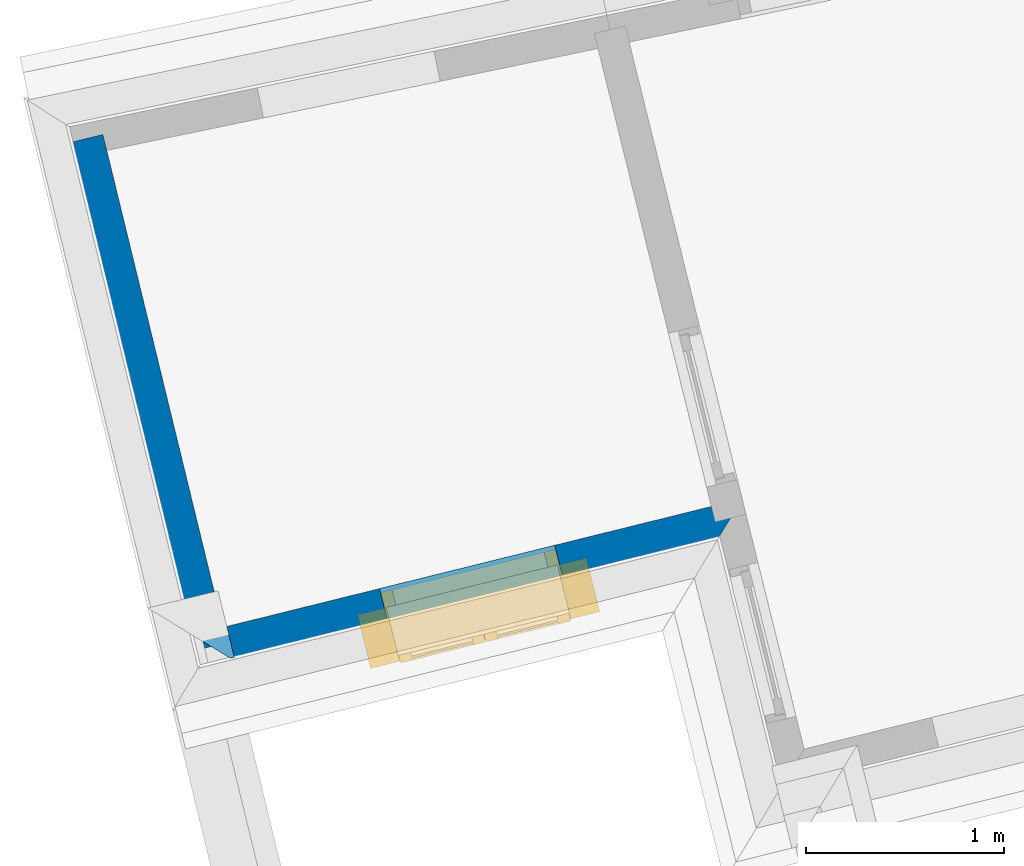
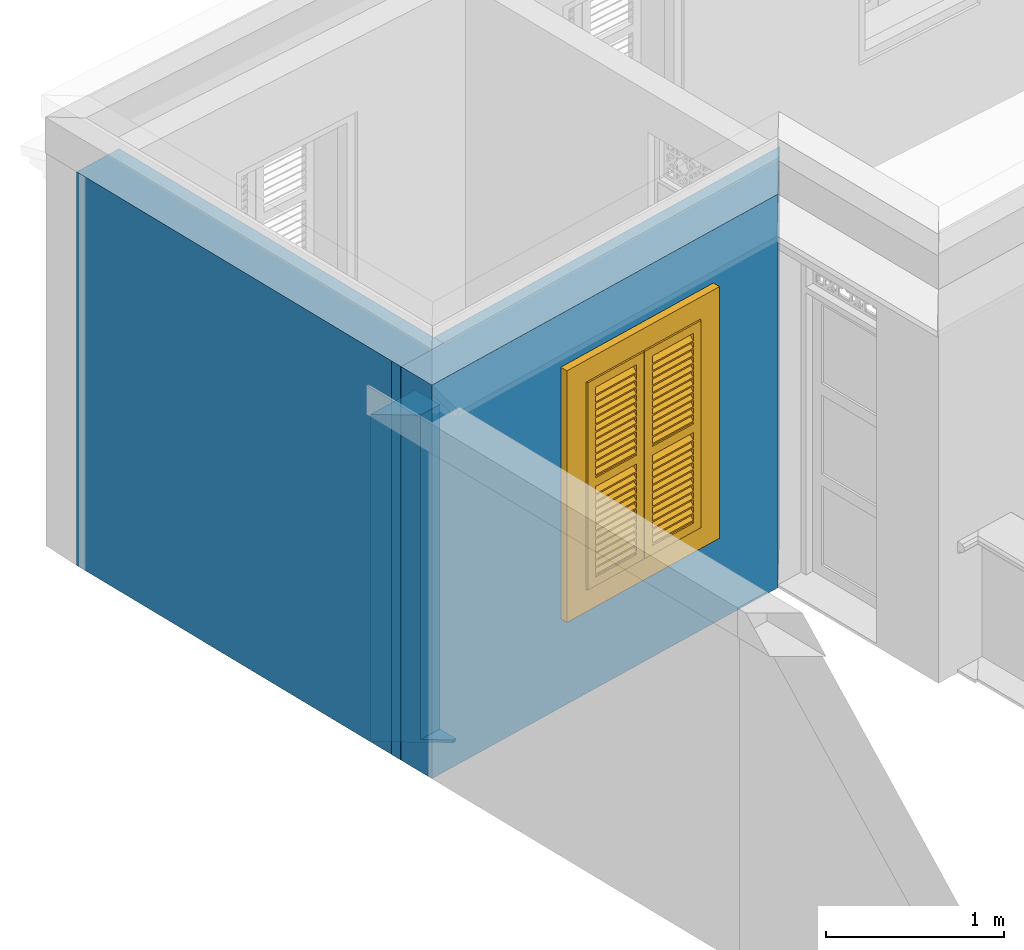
# One storey, part 7 of 15: 3 walls, 1 window, 1 opening.
"""IFC4 building model written with IfcOpenShell, lengths in metres."""

from ifc_helpers import new_model, si_unit, frame, origin, origin_with_axes, place, context, subcontext, project, spatial, polyline, outline, extrude, clip, halfspace, faceted_brep, source, transform, mapped, material, layer, layer_set, layer_usage, material_profile, profile_set, profile_usage, type_object, type_shapes, element, fill, save


model = new_model("IFC4")

# Units and contexts
model_context = context("Model", 3, world=origin_with_axes())
body_context = subcontext(model_context, "Body", "Model", "MODEL_VIEW")
ifc_project = project(units=[si_unit("PLANEANGLEUNIT", "RADIAN"), si_unit("MASSUNIT", "GRAM", prefix="KILO"), si_unit("FORCEUNIT", "NEWTON", prefix="KILO"), si_unit("LENGTHUNIT", "METRE"), si_unit("AREAUNIT", "SQUARE_METRE"), si_unit("VOLUMEUNIT", "CUBIC_METRE")], contexts=[model_context, model_context])

# Site, building, storey
site_placement = place(None, origin_with_axes())
site = spatial("IfcSite", under=ifc_project, at=site_placement, Name="Site plot-5", CompositionType="ELEMENT")
building_placement = place(None, origin_with_axes())
building = spatial("IfcBuilding", under=site, at=building_placement, Name="Building plot-5", CompositionType="ELEMENT")
storey_placement = place(None, frame((0.0, 0.0, 3.45), z_axis=(0.0, 0.0, 1.0), x_axis=(1.0, 0.0, 0.0)))
storey = spatial("IfcBuildingStorey", under=building, at=storey_placement, Name="plot-5 1", CompositionType="ELEMENT", Elevation=3.45)

# Wall, opening, window
ifc_material_1 = material(Name="Masonry")
ifc_layer_1 = layer(ifc_material_1, 0.33, ventilated=False)
ifc_layer_set_1 = layer_set([ifc_layer_1], Name="exterior_0.08_0.25")
ifc_layer_usage_1 = layer_usage(ifc_layer_set_1, "AXIS2", "POSITIVE", -0.25)
wall_type_1 = type_object("IfcWallType", Name="exterior_0.08_0.25", PredefinedType="SOLIDWALL", material=ifc_layer_set_1)
wall_1_placement = place(storey_placement, frame((15.2083541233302, 28.0535389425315, 0.0), z_axis=(0.0, 0.0, 1.0), x_axis=(0.970711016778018, 0.240250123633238, 0.0)))
wall_1 = element("IfcWall", 1, at=wall_1_placement, inside=storey, type_object=wall_type_1, material=ifc_layer_usage_1, Name="exterior", context=body_context, shape_type="SweptSolid", body=[
    extrude(outline(polyline([(-0.25, 0.0800000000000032), (-0.249999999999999, -0.249999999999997), (2.44735428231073, -0.249999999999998), (2.77735428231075, 0.080000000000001), (-0.25, 0.0800000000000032)])), origin_with_axes(), (0.0, 0.0, 1.0), 2.7),
])
opening_placement = place(wall_1_placement, frame((0.89367714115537, 0.0, 0.75)))
opening = element("IfcOpeningElement", 2, at=opening_placement, cuts=wall_1, Name="My Opening", ObjectType="Opening", context=body_context, shape_type="SweptSolid", body=[
    extrude(outline(polyline([(0.0, -0.270000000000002), (0.909999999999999, -0.269999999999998), (0.91, 1.1), (5.55111512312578e-16, 1.1), (0.0, -0.270000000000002)])), origin_with_axes(), (0.0, 0.0, 1.0), 1.445),
])
window_type = type_object("IfcWindowType", Name="shuttered_shorter", PartitioningType="DOUBLE_PANEL_HORIZONTAL", PredefinedType="NOTDEFINED")
shared_shape = source(origin(), body_context, "Body", "Brep", [
    faceted_brep([(0.393, 0.0, 0.622), (0.074, 0.0, 0.622), (0.074, 0.0, 0.632), (0.393, 0.0, 0.632), (0.074, -0.04, 0.592), (0.393, -0.04, 0.592), (0.393, -0.04, 0.582), (0.074, -0.04, 0.582), (0.517, 0.0, 0.682), (0.836, 0.0, 0.682), (0.836, 0.0, 0.672), (0.517, 0.0, 0.672), (0.517, -0.04, 0.642), (0.836, -0.04, 0.642), (0.836, -0.04, 0.632), (0.517, -0.04, 0.632), (0.517, 0.0, 0.632), (0.836, 0.0, 0.632), (0.836, 0.0, 0.622), (0.517, 0.0, 0.622), (0.517, -0.04, 0.592), (0.836, -0.04, 0.592), (0.836, -0.04, 0.582), (0.517, -0.04, 0.582), (0.517, 0.0, 0.232), (0.836, 0.0, 0.232), (0.836, 0.0, 0.222), (0.517, 0.0, 0.222), (0.517, -0.04, 0.192), (0.836, -0.04, 0.192), (0.836, -0.04, 0.182), (0.517, -0.04, 0.182), (0.517, 0.0, 0.532), (0.836, 0.0, 0.532), (0.836, 0.0, 0.522), (0.517, 0.0, 0.522), (0.517, -0.04, 0.492), (0.836, -0.04, 0.492), (0.836, -0.04, 0.482), (0.517, -0.04, 0.482), (0.517, 0.0, 0.482), (0.836, 0.0, 0.482), (0.836, 0.0, 0.472), (0.517, 0.0, 0.472), (0.517, -0.04, 0.442), (0.836, -0.04, 0.442), (0.836, -0.04, 0.432), (0.517, -0.04, 0.432), (0.517, 0.0, 0.582), (0.836, 0.0, 0.582), (0.836, 0.0, 0.572), (0.517, 0.0, 0.572), (0.517, -0.04, 0.542), (0.836, -0.04, 0.542), (0.836, -0.04, 0.532), (0.517, -0.04, 0.532), (0.517, 0.0, 0.182), (0.836, 0.0, 0.182), (0.836, 0.0, 0.172), (0.517, 0.0, 0.172), (0.517, -0.04, 0.142), (0.836, -0.04, 0.142), (0.836, -0.04, 0.132), (0.517, -0.04, 0.132), (0.517, 0.0, 0.382), (0.836, 0.0, 0.382), (0.836, 0.0, 0.372), (0.517, 0.0, 0.372), (0.517, -0.04, 0.342), (0.836, -0.04, 0.342), (0.836, -0.04, 0.332), (0.517, -0.04, 0.332), (0.517, 0.0, 0.432), (0.836, 0.0, 0.432), (0.836, 0.0, 0.422), (0.517, 0.0, 0.422), (0.517, -0.04, 0.392), (0.836, -0.04, 0.392), (0.836, -0.04, 0.382), (0.517, -0.04, 0.382), (0.517, 0.0, 0.132), (0.836, 0.0, 0.132), (0.836, 0.0, 0.122), (0.517, 0.0, 0.122), (0.517, -0.04, 0.092), (0.836, -0.04, 0.092), (0.836, -0.04, 0.082), (0.517, -0.04, 0.082), (0.517, 0.0, 0.282), (0.836, 0.0, 0.282), (0.836, 0.0, 0.272), (0.517, 0.0, 0.272), (0.517, -0.04, 0.242), (0.836, -0.04, 0.242), (0.836, -0.04, 0.232), (0.517, -0.04, 0.232), (0.517, 0.0, 0.332), (0.836, 0.0, 0.332), (0.836, 0.0, 0.322), (0.517, 0.0, 0.322), (0.517, -0.04, 0.292), (0.836, -0.04, 0.292), (0.836, -0.04, 0.282), (0.517, -0.04, 0.282), (0.517, 0.0, 1.362667), (0.836, 0.0, 1.362667), (0.836, 0.0, 1.352667), (0.517, 0.0, 1.352667), (0.517, -0.04, 1.322667), (0.836, -0.04, 1.322667), (0.836, -0.04, 1.312667), (0.517, -0.04, 1.312667), (0.517, 0.0, 1.312667), (0.836, 0.0, 1.312667), (0.836, 0.0, 1.302667), (0.517, 0.0, 1.302667), (0.517, -0.04, 1.272667), (0.836, -0.04, 1.272667), (0.836, -0.04, 1.262667), (0.517, -0.04, 1.262667), (0.517, 0.0, 0.912667), (0.836, 0.0, 0.912667), (0.836, 0.0, 0.902667), (0.517, 0.0, 0.902667), (0.517, -0.04, 0.872667), (0.836, -0.04, 0.872667), (0.836, -0.04, 0.862667), (0.517, -0.04, 0.862667), (0.517, 0.0, 1.212667), (0.836, 0.0, 1.212667), (0.836, 0.0, 1.202667), (0.517, 0.0, 1.202667), (0.517, -0.04, 1.172667), (0.836, -0.04, 1.172667), (0.836, -0.04, 1.162667), (0.517, -0.04, 1.162667), (0.517, 0.0, 1.162667), (0.836, 0.0, 1.162667), (0.836, 0.0, 1.152667), (0.517, 0.0, 1.152667), (0.517, -0.04, 1.122667), (0.836, -0.04, 1.122667), (0.836, -0.04, 1.112667), (0.517, -0.04, 1.112667), (0.517, 0.0, 1.262667), (0.836, 0.0, 1.262667), (0.836, 0.0, 1.252667), (0.517, 0.0, 1.252667), (0.517, -0.04, 1.222667), (0.836, -0.04, 1.222667), (0.836, -0.04, 1.212667), (0.517, -0.04, 1.212667), (0.517, 0.0, 0.862667), (0.836, 0.0, 0.862667), (0.836, 0.0, 0.852667), (0.517, 0.0, 0.852667), (0.517, -0.04, 0.822667), (0.836, -0.04, 0.822667), (0.836, -0.04, 0.812667), (0.517, -0.04, 0.812667), (0.517, 0.0, 1.062667), (0.836, 0.0, 1.062667), (0.836, 0.0, 1.052667), (0.517, 0.0, 1.052667), (0.517, -0.04, 1.022667), (0.836, -0.04, 1.022667), (0.836, -0.04, 1.012667), (0.517, -0.04, 1.012667), (0.517, 0.0, 1.112667), (0.836, 0.0, 1.112667), (0.836, 0.0, 1.102667), (0.517, 0.0, 1.102667), (0.517, -0.04, 1.072667), (0.836, -0.04, 1.072667), (0.836, -0.04, 1.062667), (0.517, -0.04, 1.062667), (0.517, 0.0, 0.812667), (0.836, 0.0, 0.812667), (0.836, 0.0, 0.802667), (0.517, 0.0, 0.802667), (0.517, -0.04, 0.772667), (0.836, -0.04, 0.772667), (0.836, -0.04, 0.762667), (0.517, -0.04, 0.762667), (0.517, 0.0, 0.962667), (0.836, 0.0, 0.962667), (0.836, 0.0, 0.952667), (0.517, 0.0, 0.952667), (0.517, -0.04, 0.922667), (0.836, -0.04, 0.922667), (0.836, -0.04, 0.912667), (0.517, -0.04, 0.912667), (0.517, 0.0, 1.012667), (0.836, 0.0, 1.012667), (0.836, 0.0, 1.002667), (0.517, 0.0, 1.002667), (0.517, -0.04, 0.972667), (0.836, -0.04, 0.972667), (0.836, -0.04, 0.962667), (0.517, -0.04, 0.962667), (0.074, 0.0, 0.682), (0.393, 0.0, 0.682), (0.393, 0.0, 0.672), (0.074, 0.0, 0.672), (0.074, -0.04, 0.642), (0.393, -0.04, 0.642), (0.393, -0.04, 0.632), (0.074, -0.04, 0.632), (0.074, 0.0, 0.232), (0.393, 0.0, 0.232), (0.393, 0.0, 0.222), (0.074, 0.0, 0.222), (0.074, -0.04, 0.192), (0.393, -0.04, 0.192), (0.393, -0.04, 0.182), (0.074, -0.04, 0.182), (0.074, 0.0, 0.532), (0.393, 0.0, 0.532), (0.393, 0.0, 0.522), (0.074, 0.0, 0.522), (0.074, -0.04, 0.492), (0.393, -0.04, 0.492), (0.393, -0.04, 0.482), (0.074, -0.04, 0.482), (0.074, 0.0, 0.482), (0.393, 0.0, 0.482), (0.393, 0.0, 0.472), (0.074, 0.0, 0.472), (0.074, -0.04, 0.442), (0.393, -0.04, 0.442), (0.393, -0.04, 0.432), (0.074, -0.04, 0.432), (0.074, 0.0, 0.582), (0.393, 0.0, 0.582), (0.393, 0.0, 0.572), (0.074, 0.0, 0.572), (0.074, -0.04, 0.542), (0.393, -0.04, 0.542), (0.393, -0.04, 0.532), (0.074, -0.04, 0.532), (0.074, 0.0, 0.182), (0.393, 0.0, 0.182), (0.393, 0.0, 0.172), (0.074, 0.0, 0.172), (0.074, -0.04, 0.142), (0.393, -0.04, 0.142), (0.393, -0.04, 0.132), (0.074, -0.04, 0.132), (0.074, 0.0, 0.382), (0.393, 0.0, 0.382), (0.393, 0.0, 0.372), (0.074, 0.0, 0.372), (0.074, -0.04, 0.342), (0.393, -0.04, 0.342), (0.393, -0.04, 0.332), (0.074, -0.04, 0.332), (0.074, 0.0, 0.432), (0.393, 0.0, 0.432), (0.393, 0.0, 0.422), (0.074, 0.0, 0.422), (0.074, -0.04, 0.392), (0.393, -0.04, 0.392), (0.393, -0.04, 0.382), (0.074, -0.04, 0.382), (0.074, 0.0, 0.132), (0.393, 0.0, 0.132), (0.393, 0.0, 0.122), (0.074, 0.0, 0.122), (0.074, -0.04, 0.092), (0.393, -0.04, 0.092), (0.393, -0.04, 0.082), (0.074, -0.04, 0.082), (0.074, 0.0, 0.282), (0.393, 0.0, 0.282), (0.393, 0.0, 0.272), (0.074, 0.0, 0.272), (0.074, -0.04, 0.242), (0.393, -0.04, 0.242), (0.393, -0.04, 0.232), (0.074, -0.04, 0.232), (0.074, 0.0, 0.332), (0.393, 0.0, 0.332), (0.393, 0.0, 0.322), (0.074, 0.0, 0.322), (0.074, -0.04, 0.292), (0.393, -0.04, 0.292), (0.393, -0.04, 0.282), (0.074, -0.04, 0.282), (0.074, 0.0, 1.362667), (0.393, 0.0, 1.362667), (0.393, 0.0, 1.352667), (0.074, 0.0, 1.352667), (0.074, -0.04, 1.322667), (0.393, -0.04, 1.322667), (0.393, -0.04, 1.312667), (0.074, -0.04, 1.312667), (0.074, 0.0, 1.312667), (0.393, 0.0, 1.312667), (0.393, 0.0, 1.302667), (0.074, 0.0, 1.302667), (0.074, -0.04, 1.272667), (0.393, -0.04, 1.272667), (0.393, -0.04, 1.262667), (0.074, -0.04, 1.262667), (0.074, 0.0, 0.912667), (0.393, 0.0, 0.912667), (0.393, 0.0, 0.902667), (0.074, 0.0, 0.902667), (0.074, -0.04, 0.872667), (0.393, -0.04, 0.872667), (0.393, -0.04, 0.862667), (0.074, -0.04, 0.862667), (0.074, 0.0, 1.212667), (0.393, 0.0, 1.212667), (0.393, 0.0, 1.202667), (0.074, 0.0, 1.202667), (0.074, -0.04, 1.172667), (0.393, -0.04, 1.172667), (0.393, -0.04, 1.162667), (0.074, -0.04, 1.162667), (0.074, 0.0, 1.162667), (0.393, 0.0, 1.162667), (0.393, 0.0, 1.152667), (0.074, 0.0, 1.152667), (0.074, -0.04, 1.122667), (0.393, -0.04, 1.122667), (0.393, -0.04, 1.112667), (0.074, -0.04, 1.112667), (0.074, 0.0, 1.262667), (0.393, 0.0, 1.262667), (0.393, 0.0, 1.252667), (0.074, 0.0, 1.252667), (0.074, -0.04, 1.222667), (0.393, -0.04, 1.222667), (0.393, -0.04, 1.212667), (0.074, -0.04, 1.212667), (0.074, 0.0, 0.862667), (0.393, 0.0, 0.862667), (0.393, 0.0, 0.852667), (0.074, 0.0, 0.852667), (0.074, -0.04, 0.822667), (0.393, -0.04, 0.822667), (0.393, -0.04, 0.812667), (0.074, -0.04, 0.812667), (0.074, 0.0, 1.062667), (0.393, 0.0, 1.062667), (0.393, 0.0, 1.052667), (0.074, 0.0, 1.052667), (0.074, -0.04, 1.022667), (0.393, -0.04, 1.022667), (0.393, -0.04, 1.012667), (0.074, -0.04, 1.012667), (0.074, 0.0, 1.112667), (0.393, 0.0, 1.112667), (0.393, 0.0, 1.102667), (0.074, 0.0, 1.102667), (0.074, -0.04, 1.072667), (0.393, -0.04, 1.072667), (0.393, -0.04, 1.062667), (0.074, -0.04, 1.062667), (0.074, 0.0, 0.812667), (0.393, 0.0, 0.812667), (0.393, 0.0, 0.802667), (0.074, 0.0, 0.802667), (0.074, -0.04, 0.772667), (0.393, -0.04, 0.772667), (0.393, -0.04, 0.762667), (0.074, -0.04, 0.762667), (0.074, 0.0, 0.962667), (0.393, 0.0, 0.962667), (0.393, 0.0, 0.952667), (0.074, 0.0, 0.952667), (0.074, -0.04, 0.922667), (0.393, -0.04, 0.922667), (0.393, -0.04, 0.912667), (0.074, -0.04, 0.912667), (0.074, 0.0, 1.012667), (0.393, 0.0, 1.012667), (0.393, 0.0, 1.002667), (0.074, 0.0, 1.002667), (0.074, -0.04, 0.972667), (0.393, -0.04, 0.972667), (0.393, -0.04, 0.962667), (0.074, -0.04, 0.962667), (0.517, -0.04, 0.072), (0.457, -0.04, 0.012), (0.896, -0.04, 0.012), (0.836, -0.04, 0.072), (0.457, -0.04, 0.692667), (0.517, -0.04, 0.692667), (0.457, 0.0, 0.012), (0.896, 0.0, 0.012), (0.836, -0.04, 0.692667), (0.896, -0.04, 0.692667), (0.836, 0.0, 0.072), (0.517, 0.0, 0.072), (0.457, 0.0, 0.692667), (0.517, 0.0, 0.692667), (0.517, -0.04, 0.752666), (0.457, -0.04, 0.752666), (0.896, 0.0, 0.692667), (0.836, 0.0, 0.692667), (0.836, -0.04, 0.752666), (0.896, -0.04, 0.752666), (0.457, 0.0, 0.752666), (0.457, -0.04, 1.433333), (0.517, -0.04, 1.373333), (0.896, 0.0, 0.752666), (0.836, -0.04, 1.373333), (0.896, -0.04, 1.433333), (0.457, 0.0, 1.433333), (0.517, 0.0, 0.752666), (0.836, 0.0, 0.752666), (0.517, 0.0, 1.373333), (0.896, 0.0, 1.433333), (0.836, 0.0, 1.373333), (0.074, -0.04, 0.072), (0.014, -0.04, 0.012), (0.453, -0.04, 0.012), (0.393, -0.04, 0.072), (0.014, -0.04, 0.692667), (0.074, -0.04, 0.692667), (0.014, 0.0, 0.012), (0.453, 0.0, 0.012), (0.393, -0.04, 0.692667), (0.453, -0.04, 0.692667), (0.393, 0.0, 0.072), (0.074, 0.0, 0.072), (0.014, 0.0, 0.692667), (0.074, 0.0, 0.692667), (0.074, -0.04, 0.752666), (0.014, -0.04, 0.752666), (0.453, 0.0, 0.692667), (0.393, 0.0, 0.692667), (0.393, -0.04, 0.752666), (0.453, -0.04, 0.752666), (0.014, 0.0, 0.752666), (0.014, -0.04, 1.433333), (0.074, -0.04, 1.373333), (0.453, 0.0, 0.752666), (0.393, -0.04, 1.373333), (0.453, -0.04, 1.433333), (0.014, 0.0, 1.433333), (0.074, 0.0, 0.752666), (0.393, 0.0, 0.752666), (0.074, 0.0, 1.373333), (0.453, 0.0, 1.433333), (0.393, 0.0, 1.373333), (0.0, 0.33, 1.445), (0.91, 0.33, 1.445), (0.85, 0.33, 1.385), (0.06, 0.33, 1.385), (0.91, 0.25, 1.445), (0.0, 0.25, 1.445), (0.91, 0.25, 1.445), (0.85, 0.33, 0.06), (0.91, 0.33, 0.0), (0.85, 0.25, 1.385), (0.06, 0.25, 1.385), (0.0, 0.33, 0.0), (0.06, 0.33, 0.06), (0.0, 0.25, 0.0), (0.91, 0.25, 0.0), (0.85, 0.25, 0.06), (0.06, 0.25, 0.06), (1.05, 0.25, 1.585), (-0.14, 0.25, 1.585), (-0.14, -0.03, 1.585), (1.05, -0.03, 1.585), (0.9, -0.03, 1.435), (0.01, -0.03, 1.435), (0.01, 0.25, 1.435), (0.9, 0.25, 1.435), (0.9, 0.25, 0.01), (0.9, -0.03, 0.01), (1.05, -0.03, -0.14), (1.05, 0.25, -0.14), (0.01, -0.03, 0.01), (0.01, 0.25, 0.01), (-0.14, -0.03, -0.14), (-0.14, 0.25, -0.14)], [[[0, 1, 2, 3]], [[4, 5, 3, 2]], [[5, 6, 0, 3]], [[1, 0, 6, 7]], [[2, 1, 7, 4]], [[5, 4, 7, 6]], [[8, 9, 10, 11]], [[12, 13, 9, 8]], [[13, 14, 10, 9]], [[14, 15, 11, 10]], [[15, 12, 8, 11]], [[13, 12, 15, 14]], [[16, 17, 18, 19]], [[20, 21, 17, 16]], [[21, 22, 18, 17]], [[22, 23, 19, 18]], [[23, 20, 16, 19]], [[21, 20, 23, 22]], [[24, 25, 26, 27]], [[28, 29, 25, 24]], [[29, 30, 26, 25]], [[30, 31, 27, 26]], [[31, 28, 24, 27]], [[29, 28, 31, 30]], [[32, 33, 34, 35]], [[36, 37, 33, 32]], [[37, 38, 34, 33]], [[38, 39, 35, 34]], [[39, 36, 32, 35]], [[37, 36, 39, 38]], [[40, 41, 42, 43]], [[44, 45, 41, 40]], [[45, 46, 42, 41]], [[46, 47, 43, 42]], [[47, 44, 40, 43]], [[45, 44, 47, 46]], [[48, 49, 50, 51]], [[52, 53, 49, 48]], [[53, 54, 50, 49]], [[54, 55, 51, 50]], [[55, 52, 48, 51]], [[53, 52, 55, 54]], [[56, 57, 58, 59]], [[60, 61, 57, 56]], [[61, 62, 58, 57]], [[62, 63, 59, 58]], [[63, 60, 56, 59]], [[61, 60, 63, 62]], [[64, 65, 66, 67]], [[68, 69, 65, 64]], [[69, 70, 66, 65]], [[70, 71, 67, 66]], [[71, 68, 64, 67]], [[69, 68, 71, 70]], [[72, 73, 74, 75]], [[76, 77, 73, 72]], [[77, 78, 74, 73]], [[78, 79, 75, 74]], [[79, 76, 72, 75]], [[77, 76, 79, 78]], [[80, 81, 82, 83]], [[84, 85, 81, 80]], [[85, 86, 82, 81]], [[86, 87, 83, 82]], [[87, 84, 80, 83]], [[85, 84, 87, 86]], [[88, 89, 90, 91]], [[92, 93, 89, 88]], [[93, 94, 90, 89]], [[94, 95, 91, 90]], [[95, 92, 88, 91]], [[93, 92, 95, 94]], [[96, 97, 98, 99]], [[100, 101, 97, 96]], [[101, 102, 98, 97]], [[102, 103, 99, 98]], [[103, 100, 96, 99]], [[101, 100, 103, 102]], [[104, 105, 106, 107]], [[108, 109, 105, 104]], [[109, 110, 106, 105]], [[110, 111, 107, 106]], [[111, 108, 104, 107]], [[109, 108, 111, 110]], [[112, 113, 114, 115]], [[116, 117, 113, 112]], [[117, 118, 114, 113]], [[118, 119, 115, 114]], [[119, 116, 112, 115]], [[117, 116, 119, 118]], [[120, 121, 122, 123]], [[124, 125, 121, 120]], [[125, 126, 122, 121]], [[126, 127, 123, 122]], [[127, 124, 120, 123]], [[125, 124, 127, 126]], [[128, 129, 130, 131]], [[132, 133, 129, 128]], [[133, 134, 130, 129]], [[134, 135, 131, 130]], [[135, 132, 128, 131]], [[133, 132, 135, 134]], [[136, 137, 138, 139]], [[140, 141, 137, 136]], [[141, 142, 138, 137]], [[142, 143, 139, 138]], [[139, 143, 140, 136]], [[141, 140, 143, 142]], [[144, 145, 146, 147]], [[148, 149, 145, 144]], [[149, 150, 146, 145]], [[150, 151, 147, 146]], [[151, 148, 144, 147]], [[149, 148, 151, 150]], [[152, 153, 154, 155]], [[156, 157, 153, 152]], [[157, 158, 154, 153]], [[158, 159, 155, 154]], [[159, 156, 152, 155]], [[157, 156, 159, 158]], [[160, 161, 162, 163]], [[164, 165, 161, 160]], [[165, 166, 162, 161]], [[166, 167, 163, 162]], [[167, 164, 160, 163]], [[165, 164, 167, 166]], [[168, 169, 170, 171]], [[172, 173, 169, 168]], [[173, 174, 170, 169]], [[174, 175, 171, 170]], [[175, 172, 168, 171]], [[173, 172, 175, 174]], [[176, 177, 178, 179]], [[180, 181, 177, 176]], [[181, 182, 178, 177]], [[182, 183, 179, 178]], [[183, 180, 176, 179]], [[181, 180, 183, 182]], [[184, 185, 186, 187]], [[188, 189, 185, 184]], [[189, 190, 186, 185]], [[190, 191, 187, 186]], [[191, 188, 184, 187]], [[189, 188, 191, 190]], [[192, 193, 194, 195]], [[196, 197, 193, 192]], [[197, 198, 194, 193]], [[198, 199, 195, 194]], [[199, 196, 192, 195]], [[197, 196, 199, 198]], [[200, 201, 202, 203]], [[204, 205, 201, 200]], [[205, 206, 202, 201]], [[206, 207, 203, 202]], [[207, 204, 200, 203]], [[205, 204, 207, 206]], [[208, 209, 210, 211]], [[212, 213, 209, 208]], [[213, 214, 210, 209]], [[214, 215, 211, 210]], [[215, 212, 208, 211]], [[213, 212, 215, 214]], [[216, 217, 218, 219]], [[220, 221, 217, 216]], [[221, 222, 218, 217]], [[222, 223, 219, 218]], [[223, 220, 216, 219]], [[221, 220, 223, 222]], [[224, 225, 226, 227]], [[228, 229, 225, 224]], [[229, 230, 226, 225]], [[230, 231, 227, 226]], [[231, 228, 224, 227]], [[229, 228, 231, 230]], [[232, 233, 234, 235]], [[236, 237, 233, 232]], [[237, 238, 234, 233]], [[238, 239, 235, 234]], [[239, 236, 232, 235]], [[237, 236, 239, 238]], [[240, 241, 242, 243]], [[244, 245, 241, 240]], [[245, 246, 242, 241]], [[246, 247, 243, 242]], [[247, 244, 240, 243]], [[245, 244, 247, 246]], [[248, 249, 250, 251]], [[252, 253, 249, 248]], [[253, 254, 250, 249]], [[254, 255, 251, 250]], [[255, 252, 248, 251]], [[253, 252, 255, 254]], [[256, 257, 258, 259]], [[260, 261, 257, 256]], [[261, 262, 258, 257]], [[262, 263, 259, 258]], [[263, 260, 256, 259]], [[261, 260, 263, 262]], [[264, 265, 266, 267]], [[268, 269, 265, 264]], [[269, 270, 266, 265]], [[270, 271, 267, 266]], [[271, 268, 264, 267]], [[269, 268, 271, 270]], [[272, 273, 274, 275]], [[276, 277, 273, 272]], [[277, 278, 274, 273]], [[278, 279, 275, 274]], [[279, 276, 272, 275]], [[277, 276, 279, 278]], [[280, 281, 282, 283]], [[284, 285, 281, 280]], [[285, 286, 282, 281]], [[286, 287, 283, 282]], [[287, 284, 280, 283]], [[285, 284, 287, 286]], [[288, 289, 290, 291]], [[292, 293, 289, 288]], [[293, 294, 290, 289]], [[294, 295, 291, 290]], [[295, 292, 288, 291]], [[293, 292, 295, 294]], [[296, 297, 298, 299]], [[300, 301, 297, 296]], [[301, 302, 298, 297]], [[302, 303, 299, 298]], [[303, 300, 296, 299]], [[301, 300, 303, 302]], [[304, 305, 306, 307]], [[308, 309, 305, 304]], [[309, 310, 306, 305]], [[310, 311, 307, 306]], [[311, 308, 304, 307]], [[309, 308, 311, 310]], [[312, 313, 314, 315]], [[316, 317, 313, 312]], [[317, 318, 314, 313]], [[318, 319, 315, 314]], [[319, 316, 312, 315]], [[317, 316, 319, 318]], [[320, 321, 322, 323]], [[324, 325, 321, 320]], [[325, 326, 322, 321]], [[326, 327, 323, 322]], [[327, 324, 320, 323]], [[325, 324, 327, 326]], [[328, 329, 330, 331]], [[332, 333, 329, 328]], [[333, 334, 330, 329]], [[334, 335, 331, 330]], [[335, 332, 328, 331]], [[333, 332, 335, 334]], [[336, 337, 338, 339]], [[340, 341, 337, 336]], [[341, 342, 338, 337]], [[342, 343, 339, 338]], [[343, 340, 336, 339]], [[341, 340, 343, 342]], [[344, 345, 346, 347]], [[348, 349, 345, 344]], [[349, 350, 346, 345]], [[350, 351, 347, 346]], [[351, 348, 344, 347]], [[349, 348, 351, 350]], [[352, 353, 354, 355]], [[356, 357, 353, 352]], [[357, 358, 354, 353]], [[358, 359, 355, 354]], [[359, 356, 352, 355]], [[357, 356, 359, 358]], [[360, 361, 362, 363]], [[364, 365, 361, 360]], [[365, 366, 362, 361]], [[366, 367, 363, 362]], [[367, 364, 360, 363]], [[365, 364, 367, 366]], [[368, 369, 370, 371]], [[372, 373, 369, 368]], [[373, 374, 370, 369]], [[374, 375, 371, 370]], [[375, 372, 368, 371]], [[373, 372, 375, 374]], [[376, 377, 378, 379]], [[380, 381, 377, 376]], [[381, 382, 378, 377]], [[382, 383, 379, 378]], [[383, 380, 376, 379]], [[381, 380, 383, 382]], [[384, 385, 386, 387]], [[388, 385, 384, 389]], [[390, 391, 386, 385]], [[392, 387, 386, 393]], [[384, 387, 394, 395]], [[390, 385, 388, 396]], [[389, 384, 395, 397]], [[389, 398, 399, 388]], [[390, 395, 394, 391]], [[400, 393, 386, 391]], [[387, 392, 401, 394]], [[402, 392, 393, 403]], [[396, 388, 399, 404]], [[390, 396, 397, 395]], [[392, 389, 397, 401]], [[398, 389, 392, 402]], [[405, 399, 398, 406]], [[394, 401, 400, 391]], [[407, 403, 393, 400]], [[408, 402, 403, 409]], [[404, 399, 405, 410]], [[411, 397, 396, 404]], [[397, 411, 412, 401]], [[398, 402, 412, 411]], [[406, 398, 411, 413]], [[405, 406, 408, 409]], [[401, 412, 407, 400]], [[414, 409, 403, 407]], [[402, 408, 415, 412]], [[405, 409, 414, 410]], [[404, 410, 413, 411]], [[408, 406, 413, 415]], [[412, 415, 414, 407]], [[413, 410, 414, 415]], [[416, 417, 418, 419]], [[420, 417, 416, 421]], [[422, 423, 418, 417]], [[424, 419, 418, 425]], [[416, 419, 426, 427]], [[422, 417, 420, 428]], [[421, 416, 427, 429]], [[421, 430, 431, 420]], [[422, 427, 426, 423]], [[432, 425, 418, 423]], [[419, 424, 433, 426]], [[434, 424, 425, 435]], [[428, 420, 431, 436]], [[422, 428, 429, 427]], [[424, 421, 429, 433]], [[430, 421, 424, 434]], [[437, 431, 430, 438]], [[426, 433, 432, 423]], [[439, 435, 425, 432]], [[440, 434, 435, 441]], [[436, 431, 437, 442]], [[443, 429, 428, 436]], [[429, 443, 444, 433]], [[430, 434, 444, 443]], [[438, 430, 443, 445]], [[437, 438, 440, 441]], [[433, 444, 439, 432]], [[446, 441, 435, 439]], [[434, 440, 447, 444]], [[437, 441, 446, 442]], [[436, 442, 445, 443]], [[440, 438, 445, 447]], [[444, 447, 446, 439]], [[445, 442, 446, 447]], [[448, 449, 450, 451]], [[452, 449, 448]], [[448, 453, 454]], [[448, 454, 452]], [[455, 450, 449, 456]], [[451, 450, 457, 458]], [[459, 448, 451, 460]], [[448, 459, 461, 453]], [[454, 453, 458, 457]], [[462, 452, 454]], [[454, 457, 463]], [[454, 463, 462]], [[456, 449, 452, 462]], [[450, 455, 463, 457]], [[456, 459, 460, 455]], [[460, 451, 458, 464]], [[459, 456, 462, 461]], [[464, 458, 453, 461]], [[461, 462, 463, 464]], [[455, 460, 464, 463]], [[465, 466, 467, 468]], [[469, 470, 471, 472]], [[473, 474, 469, 472]], [[465, 468, 475, 476]], [[470, 477, 478, 471]], [[474, 473, 478, 477]], [[474, 477, 479, 475]], [[470, 467, 479, 477]], [[470, 469, 468, 467]], [[474, 475, 468, 469]], [[471, 478, 480, 466]], [[473, 472, 465, 476]], [[473, 476, 480, 478]], [[466, 465, 472, 471]], [[480, 476, 475, 479]], [[480, 479, 467, 466]]]),
])
type_shapes(window_type, [shared_shape])
window_placement = place(storey_placement, frame((16.1407239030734, 28.0061530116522, 0.75), z_axis=(0.0, 0.0, 1.0), x_axis=(0.883347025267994, 0.21862761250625, 0.0)))
window = element("IfcWindow", 3, at=window_placement, inside=storey, type_object=window_type, Name="toilet sahn window", OverallHeight=1.445, OverallWidth=0.91, context=body_context, shape_type="MappedRepresentation", body=[
    mapped(shared_shape, transform((0.0, 0.0, 0.0), scale=1.0)),
])
fill(opening, window)

# Walls
ifc_material_2 = material(Name="Masonry")
ifc_layer_2 = layer(ifc_material_2, 0.33, ventilated=False)
ifc_layer_set_2 = layer_set([ifc_layer_2], Name="party_0.08_0.25")
ifc_layer_usage_2 = layer_usage(ifc_layer_set_2, "AXIS2", "POSITIVE", -0.25)
wall_type_2 = type_object("IfcWallType", Name="party_0.08_0.25", PredefinedType="SOLIDWALL", material=ifc_layer_set_2)
wall_2_placement = place(storey_placement, frame((14.5840904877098, 30.6170061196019, 0.0), z_axis=(0.0, 0.0, 1.0), x_axis=(0.236608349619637, -0.971605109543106, 0.0)))
element("IfcWall", 4, at=wall_2_placement, inside=storey, type_object=wall_type_2, material=ifc_layer_usage_2, Name="party", context=body_context, shape_type="SweptSolid", body=[
    extrude(outline(polyline([(-9.89861242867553e-16, 0.0800000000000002), (1.73043258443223e-15, -0.25), (2.63838379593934, -0.25), (2.63838379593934, 0.0800000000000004), (-9.89861242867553e-16, 0.0800000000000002)])), origin_with_axes(), (0.0, 0.0, 1.0), 2.7),
])
ifc_material_profile = material_profile(None, outline(polyline([(0.25, 0.0), (0.25, 2.245), (0.05, 2.245), (0.05, 0.02), (-0.08, 0.02), (-0.08, 0.0), (0.25, 0.0)])))
ifc_profile_set = profile_set([ifc_material_profile])
ifc_profile_usage = profile_usage(ifc_profile_set)
wall_type_3 = type_object("IfcWallType", Name="parapet party_0", PredefinedType="PARAPET", material=ifc_profile_set)
wall_3_placement = place(storey_placement, frame((14.2367490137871, 27.8169305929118, 0.0), z_axis=(0.971605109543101, 0.236608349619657, 0.0), x_axis=(-0.236608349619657, 0.971605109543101, 0.0)))
element("IfcWall", 5, at=wall_3_placement, inside=storey, type_object=wall_type_3, material=ifc_profile_usage, Name="parapet party_0", context=body_context, shape_type="Clipping", body=[
    clip(clip(extrude(outline(polyline([(0.25, 0.0), (0.25, 2.245), (0.05, 2.245), (0.05, 0.02), (-0.08, 0.02), (-0.08, 0.0), (0.25, 0.0)])), origin_with_axes(), (0.0, 0.0, 1.0), 2.1), halfspace(frame((0.0, 0.0, 1.1), z_axis=(8.26946079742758e-16, 0.0, -1.0), x_axis=(0.0, 1.0, 0.0)), True)), halfspace(frame((0.0, 0.0, 1.0), z_axis=(-0.707106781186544, 0.0, -0.707106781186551), x_axis=(0.0, 1.0, 0.0)), False)),
])

save(model, "model.ifc")
